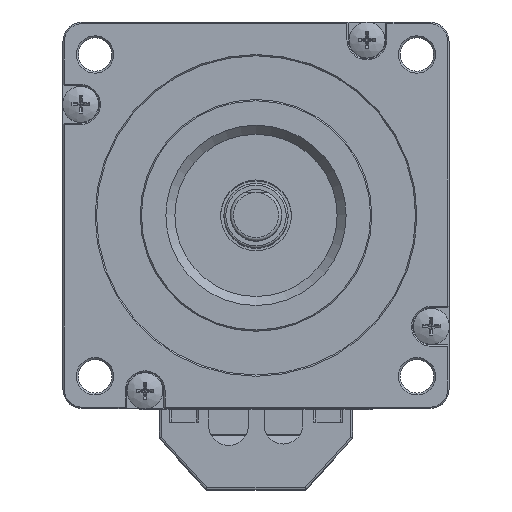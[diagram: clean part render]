
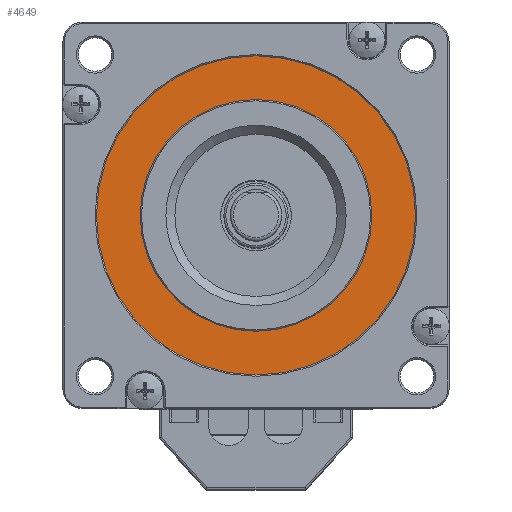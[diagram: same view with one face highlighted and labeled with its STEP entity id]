
A CAD part, top view. The second image highlights one B-rep face of the part: STEP entity #4649.
In plain terms, the highlighted planar face has unit normal (0, 0, 1).
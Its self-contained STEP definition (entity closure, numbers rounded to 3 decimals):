
#1248 = AXIS2_PLACEMENT_3D ( 'NONE', #7634, #5910, #18660 ) ;
#2047 = CARTESIAN_POINT ( 'NONE',  ( 18., 0., 10.8 ) ) ;
#2401 = VERTEX_POINT ( 'NONE', #12068 ) ;
#2766 = ORIENTED_EDGE ( 'NONE', *, *, #9726, .T. ) ;
#3746 = EDGE_LOOP ( 'NONE', ( #2766 ) ) ;
#4455 = DIRECTION ( 'NONE',  ( 1., 0., 0. ) ) ;
#4601 = AXIS2_PLACEMENT_3D ( 'NONE', #22474, #15211, #4455 ) ;
#4649 = ADVANCED_FACE ( 'NONE', ( #20873, #7606 ), #8430, .T. ) ;
#4887 = CIRCLE ( 'NONE', #4601, 18. ) ;
#4994 = DIRECTION ( 'NONE',  ( 1., 0., 0. ) ) ;
#5910 = DIRECTION ( 'NONE',  ( 0., 0., 1. ) ) ;
#7606 = FACE_OUTER_BOUND ( 'NONE', #3746, .T. ) ;
#7634 = CARTESIAN_POINT ( 'NONE',  ( 0., 0., 10.8 ) ) ;
#8430 = PLANE ( 'NONE',  #19161 ) ;
#9726 = EDGE_CURVE ( 'NONE', #2401, #2401, #10826, .T. ) ;
#10826 = CIRCLE ( 'NONE', #1248, 24.8 ) ;
#12068 = CARTESIAN_POINT ( 'NONE',  ( 24.8, 0., 10.8 ) ) ;
#13697 = DIRECTION ( 'NONE',  ( 0., 0., 1. ) ) ;
#14204 = EDGE_CURVE ( 'NONE', #14435, #14435, #4887, .T. ) ;
#14435 = VERTEX_POINT ( 'NONE', #2047 ) ;
#14856 = EDGE_LOOP ( 'NONE', ( #21761 ) ) ;
#15211 = DIRECTION ( 'NONE',  ( 0., 0., 1. ) ) ;
#18660 = DIRECTION ( 'NONE',  ( 1., 0., 0. ) ) ;
#19161 = AXIS2_PLACEMENT_3D ( 'NONE', #22701, #13697, #4994 ) ;
#20873 = FACE_BOUND ( 'NONE', #14856, .T. ) ;
#21761 = ORIENTED_EDGE ( 'NONE', *, *, #14204, .F. ) ;
#22474 = CARTESIAN_POINT ( 'NONE',  ( 0., 0., 10.8 ) ) ;
#22701 = CARTESIAN_POINT ( 'NONE',  ( 0., 0., 10.8 ) ) ;
